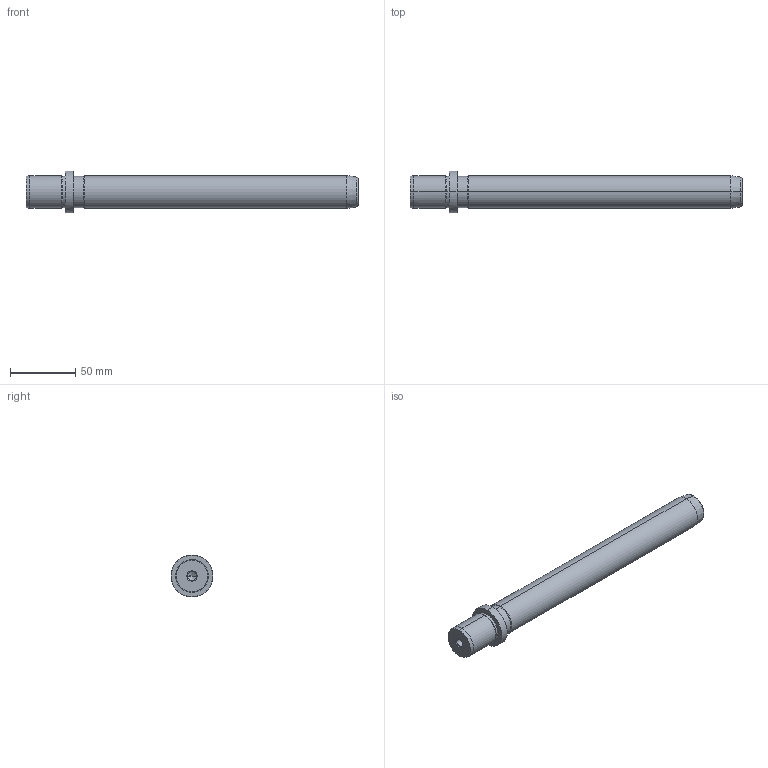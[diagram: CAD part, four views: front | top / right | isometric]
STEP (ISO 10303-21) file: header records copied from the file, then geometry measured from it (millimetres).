
FILE_DESCRIPTION(('CATIA V5 STEP Exchange'),'2;1');
FILE_NAME('C:\Users\Utente\Desktop\IO LAVORO\3D X SITO CF\X SITO\719\719-25x224.stp','2021-01-03T16:18:47+00:00',('none'),('none'),'CATIA Version 5 Release 20 GA (IN-10)','CATIA V5 STEP AP203','none');
FILE_SCHEMA(('CONFIG_CONTROL_DESIGN'));
Length unit declared in the file: millimetre
Products named in the file (1): 719-25x224
Bounding box: 254 x 32 x 32 mm (x, y, z)
Volume: 123984.7 mm3; surface area: 22585.5 mm2
Topology: 1 solids, 1 shells, 36 faces, 100 edges, 66 vertices
Faces by surface type: cone 16, cylinder 14, plane 4, torus 2
Entity records: 1270 total; most frequent: CARTESIAN_POINT 339, ORIENTED_EDGE 192, DIRECTION 158, EDGE_CURVE 96, AXIS2_PLACEMENT_3D 93, VERTEX_POINT 66, CIRCLE 56, EDGE_LOOP 40
